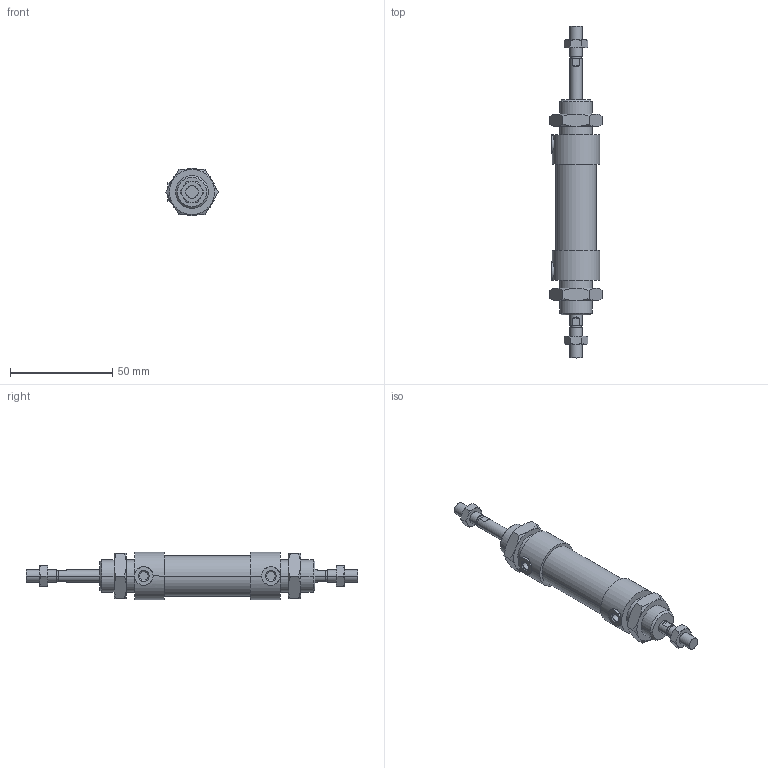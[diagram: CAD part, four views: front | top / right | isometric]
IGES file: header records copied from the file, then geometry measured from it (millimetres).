
Global section: file name: No Iges File Name specified; native system: AutoDesk Inventor R10; preprocessor: AutoDesk Inventor Iges Exporter R10; author: No Author specified; organization: No Organization specified; date: 20060105.143319; units: millimetre
Bounding box: 25.4 x 162 x 23 mm (x, y, z)
Volume: 36981.3 mm3; surface area: 15590.8 mm2
Topology: 6 solids, 6 shells, 184 faces, 394 edges, 230 vertices
Faces by surface type: cone 68, plane 58, cylinder 24, bspline 20, revolution 14
